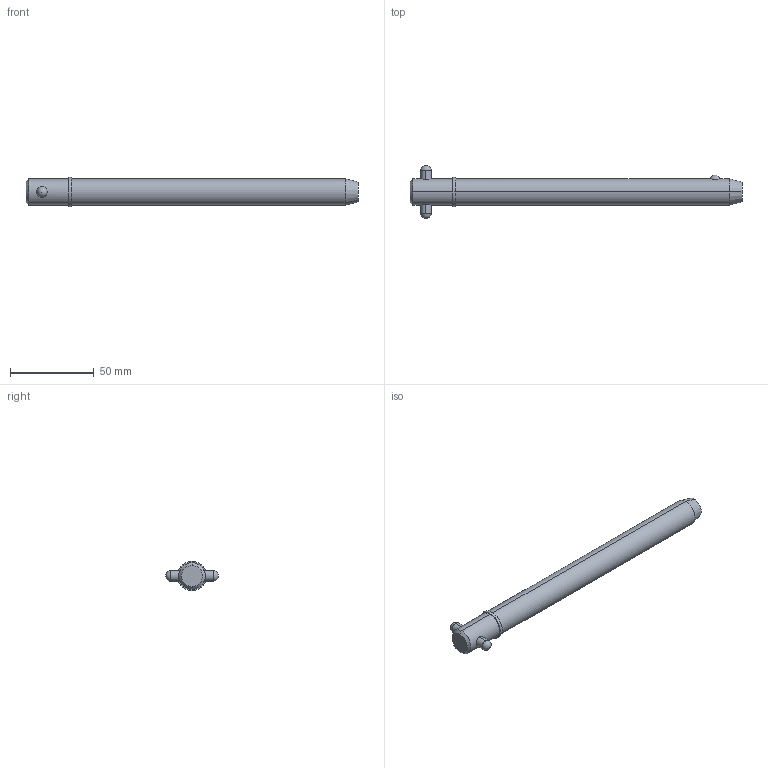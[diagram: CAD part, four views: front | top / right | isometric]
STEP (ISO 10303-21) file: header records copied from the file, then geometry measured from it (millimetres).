
FILE_DESCRIPTION (( 'STEP AP203' ), '1' );
FILE_NAME ('33018.W6260.step', '2024-11-19T17:19:25', ( '' ), ( '' ), 'SwSTEP 2.0', 'SolidWorks 2019', '' );
FILE_SCHEMA (( 'CONFIG_CONTROL_DESIGN' ));
Length unit declared in the file: millimetre
Products named in the file (3): Part1_33018.W6260; 33018.W6260; Part2_33018.W6260
Assembly tree (2 placements, depth 2):
  33018.W6260
    Part1_33018.W6260
    Part2_33018.W6260
Bounding box: 198.76 x 31.75 x 17.47 mm (x, y, z)
Volume: 39518.6 mm3; surface area: 11122.5 mm2
Topology: 2 solids, 2 shells, 22 faces, 47 edges, 30 vertices
Faces by surface type: cylinder 10, sphere 4, cone 4, plane 4
Entity records: 1047 total; most frequent: CARTESIAN_POINT 290, DIRECTION 110, ORIENTED_EDGE 82, AXIS2_PLACEMENT_3D 48, EDGE_CURVE 41, EDGE_LOOP 27, PERSON_AND_ORGANIZATION 26, VERTEX_POINT 26
